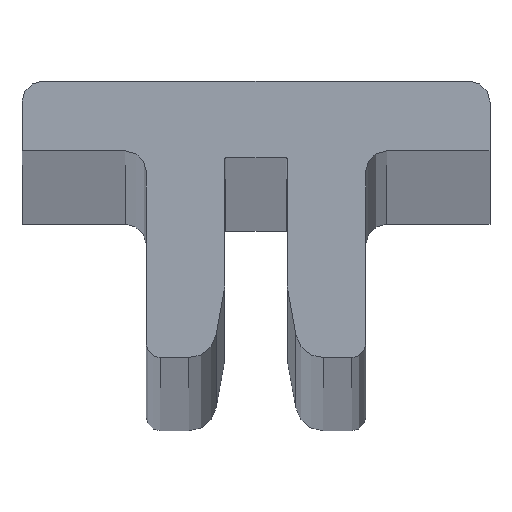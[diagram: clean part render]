
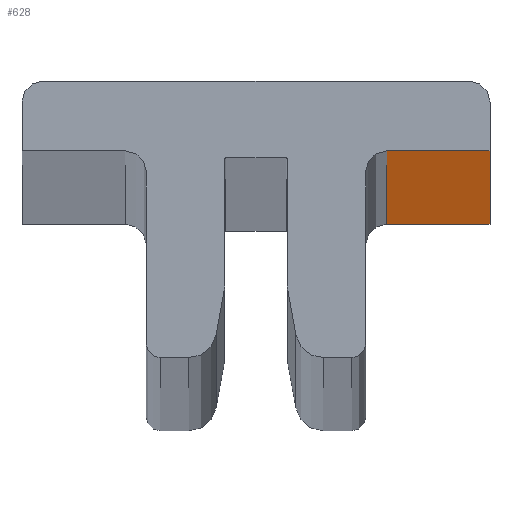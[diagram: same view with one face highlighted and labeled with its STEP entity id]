
A CAD part, top view. The second image highlights one B-rep face of the part: STEP entity #628.
In plain terms, the highlighted planar face has unit normal (0, -1, 0).
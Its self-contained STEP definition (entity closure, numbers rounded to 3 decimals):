
#59 = AXIS2_PLACEMENT_3D ( 'NONE', #795, #135, #875 ) ;
#77 = CARTESIAN_POINT ( 'NONE',  ( 9.35, 14.8, 0. ) ) ;
#105 = VECTOR ( 'NONE', #816, 1000. ) ;
#111 = VERTEX_POINT ( 'NONE', #952 ) ;
#135 = DIRECTION ( 'NONE',  ( 0., 1., 0. ) ) ;
#150 = DIRECTION ( 'NONE',  ( 0., 0., -1. ) ) ;
#174 = LINE ( 'NONE', #683, #209 ) ;
#209 = VECTOR ( 'NONE', #398, 1000. ) ;
#229 = ORIENTED_EDGE ( 'NONE', *, *, #882, .T. ) ;
#256 = EDGE_CURVE ( 'NONE', #919, #111, #174, .T. ) ;
#322 = CARTESIAN_POINT ( 'NONE',  ( 16.75, 14.8, 0. ) ) ;
#328 = EDGE_LOOP ( 'NONE', ( #463, #942, #229, #618 ) ) ;
#370 = CARTESIAN_POINT ( 'NONE',  ( 9.35, 14.8, 0. ) ) ;
#398 = DIRECTION ( 'NONE',  ( 1., 0., 0. ) ) ;
#436 = FACE_OUTER_BOUND ( 'NONE', #328, .T. ) ;
#463 = ORIENTED_EDGE ( 'NONE', *, *, #256, .F. ) ;
#540 = CARTESIAN_POINT ( 'NONE',  ( 9.35, 14.8, 3000. ) ) ;
#589 = CARTESIAN_POINT ( 'NONE',  ( 16.75, 14.8, 0. ) ) ;
#611 = VECTOR ( 'NONE', #616, 1000. ) ;
#616 = DIRECTION ( 'NONE',  ( 1., 0., 0. ) ) ;
#618 = ORIENTED_EDGE ( 'NONE', *, *, #685, .F. ) ;
#628 = ADVANCED_FACE ( 'NONE', ( #436 ), #724, .F. ) ;
#649 = VECTOR ( 'NONE', #150, 1000. ) ;
#683 = CARTESIAN_POINT ( 'NONE',  ( 16.75, 14.8, 3000. ) ) ;
#685 = EDGE_CURVE ( 'NONE', #111, #710, #812, .T. ) ;
#703 = EDGE_CURVE ( 'NONE', #919, #746, #810, .T. ) ;
#710 = VERTEX_POINT ( 'NONE', #589 ) ;
#724 = PLANE ( 'NONE',  #59 ) ;
#737 = CARTESIAN_POINT ( 'NONE',  ( 16.75, 14.8, 3000. ) ) ;
#746 = VERTEX_POINT ( 'NONE', #77 ) ;
#795 = CARTESIAN_POINT ( 'NONE',  ( 16.75, 14.8, 3000. ) ) ;
#810 = LINE ( 'NONE', #370, #105 ) ;
#812 = LINE ( 'NONE', #737, #649 ) ;
#816 = DIRECTION ( 'NONE',  ( 0., 0., -1. ) ) ;
#875 = DIRECTION ( 'NONE',  ( 0., 0., 1. ) ) ;
#882 = EDGE_CURVE ( 'NONE', #746, #710, #895, .T. ) ;
#895 = LINE ( 'NONE', #322, #611 ) ;
#919 = VERTEX_POINT ( 'NONE', #540 ) ;
#942 = ORIENTED_EDGE ( 'NONE', *, *, #703, .T. ) ;
#952 = CARTESIAN_POINT ( 'NONE',  ( 16.75, 14.8, 3000. ) ) ;
